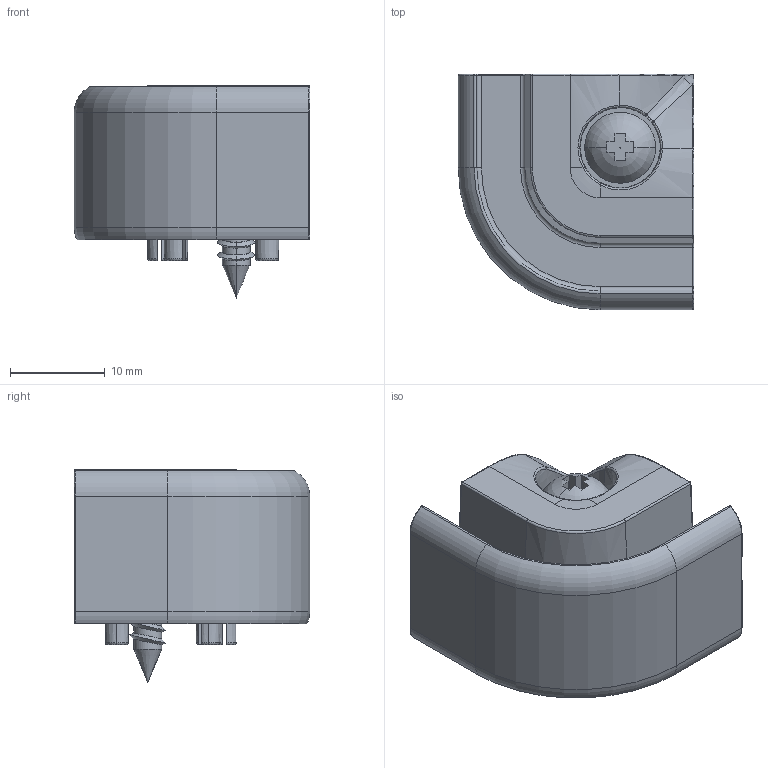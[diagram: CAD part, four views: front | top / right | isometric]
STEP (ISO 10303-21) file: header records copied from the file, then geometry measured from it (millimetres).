
FILE_DESCRIPTION (( 'STEP AP203' ), '1' );
FILE_NAME ('013.025.123.STEP', '2020-09-21T07:05:27', ( '' ), ( '' ), 'SwSTEP 2.0', 'SolidWorks 2018', '' );
FILE_SCHEMA (( 'CONFIG_CONTROL_DESIGN' ));
Length unit declared in the file: millimetre
Products named in the file (3): 013.025.123A; VITE UNI 6954 3,9x19; 013.025.123
Assembly tree (2 placements, depth 2):
  013.025.123
    013.025.123A
    VITE UNI 6954 3,9x19
Bounding box: 24.9 x 24.9 x 22.5 mm (x, y, z)
Volume: 4297.6 mm3; surface area: 4810.4 mm2
Topology: 2 solids, 2 shells, 322 faces, 808 edges, 482 vertices
Faces by surface type: plane 76, cone 73, cylinder 70, bspline 54, torus 48, sphere 1
Entity records: 11979 total; most frequent: CARTESIAN_POINT 4610, ORIENTED_EDGE 1596, DIRECTION 1400, EDGE_CURVE 798, AXIS2_PLACEMENT_3D 585, VERTEX_POINT 482, EDGE_LOOP 326, ADVANCED_FACE 322
